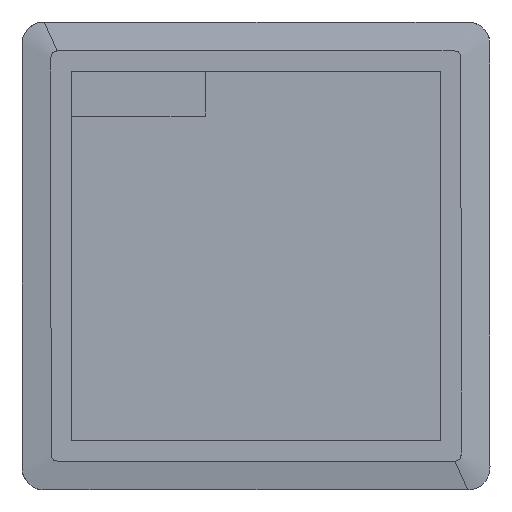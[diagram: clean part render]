
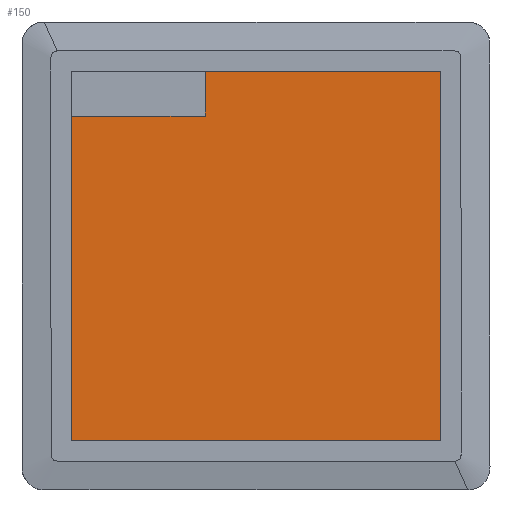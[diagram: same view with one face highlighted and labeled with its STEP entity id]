
A CAD part, front view. The second image highlights one B-rep face of the part: STEP entity #150.
In plain terms, the highlighted planar face has unit normal (0, -1, 0).
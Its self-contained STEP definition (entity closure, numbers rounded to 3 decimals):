
#150=ADVANCED_FACE('',(#494),#5454,.T.);
#494=FACE_OUTER_BOUND('',#847,.T.);
#847=EDGE_LOOP('',(#1357,#1358,#1359,#1360,#1361,#1362));
#1357=ORIENTED_EDGE('',*,*,#3081,.F.);
#1358=ORIENTED_EDGE('',*,*,#3084,.F.);
#1359=ORIENTED_EDGE('',*,*,#3077,.T.);
#1360=ORIENTED_EDGE('',*,*,#3086,.F.);
#1361=ORIENTED_EDGE('',*,*,#3080,.T.);
#1362=ORIENTED_EDGE('',*,*,#3085,.F.);
#3077=EDGE_CURVE('',#4893,#4894,#3963,.T.);
#3080=EDGE_CURVE('',#4897,#4898,#3966,.T.);
#3081=EDGE_CURVE('',#4896,#4899,#3967,.T.);
#3084=EDGE_CURVE('',#4893,#4896,#3970,.T.);
#3085=EDGE_CURVE('',#4899,#4898,#3971,.T.);
#3086=EDGE_CURVE('',#4897,#4894,#3972,.T.);
#3963=B_SPLINE_CURVE_WITH_KNOTS('',1,(#8150,#8151),.UNSPECIFIED.,.F.,.F.,
(2,2),(0.,82.8),.UNSPECIFIED.);
#3966=B_SPLINE_CURVE_WITH_KNOTS('',1,(#8156,#8157),.UNSPECIFIED.,.F.,.F.,
(2,2),(-82.8,-30.),.UNSPECIFIED.);
#3967=B_SPLINE_CURVE_WITH_KNOTS('',1,(#8158,#8159),.UNSPECIFIED.,.F.,.F.,
(2,2),(0.,30.),.UNSPECIFIED.);
#3970=B_SPLINE_CURVE_WITH_KNOTS('',1,(#8164,#8165,#8166,#8167,#8168,#8169,
#8170,#8171,#8172,#8173,#8174,#8175,#8176,#8177,#8178,#8179,#8180,#8181),
 .UNSPECIFIED.,.F.,.F.,(2,1,1,1,1,1,1,1,1,1,1,1,1,1,1,1,1,2),(0.,0.482,
3.182,9.532,12.232,18.582,21.283,
27.633,30.333,36.683,39.383,45.733,
48.434,54.784,57.484,63.834,66.534,
72.8),.UNSPECIFIED.);
#3971=B_SPLINE_CURVE_WITH_KNOTS('',1,(#8182,#8183,#8184,#8185),
 .UNSPECIFIED.,.F.,.F.,(2,1,1,2),(0.,3.502,6.203,10.),
 .UNSPECIFIED.);
#3972=B_SPLINE_CURVE_WITH_KNOTS('',1,(#8186,#8187,#8188,#8189,#8190,#8191,
#8192,#8193,#8194,#8195,#8196,#8197,#8198,#8199,#8200,#8201,#8202,#8203,
#8204,#8205),.UNSPECIFIED.,.F.,.F.,(2,1,1,1,1,1,1,1,1,1,1,1,1,1,1,1,1,1,
1,2),(-82.8,-75.585,-72.884,-66.534,
-63.834,-57.484,-54.784,-48.434,-45.733,
-39.383,-36.683,-30.333,-27.633,
-21.283,-18.582,-12.232,-9.532,
-3.182,-0.482,0.),.UNSPECIFIED.);
#4893=VERTEX_POINT('',#8081);
#4894=VERTEX_POINT('',#8082);
#4896=VERTEX_POINT('',#8084);
#4897=VERTEX_POINT('',#8085);
#4898=VERTEX_POINT('',#8086);
#4899=VERTEX_POINT('',#8087);
#5454=PLANE('',#5813);
#5813=AXIS2_PLACEMENT_3D('',#7280,#5979,$);
#5979=DIRECTION('',(0.,-1.,0.));
#7280=CARTESIAN_POINT('',(-41.4,-20.496,-41.4));
#8081=CARTESIAN_POINT('',(-41.4,-20.496,-41.4));
#8082=CARTESIAN_POINT('',(41.4,-20.496,-41.4));
#8084=CARTESIAN_POINT('',(-41.4,-20.496,31.4));
#8085=CARTESIAN_POINT('',(41.4,-20.496,41.4));
#8086=CARTESIAN_POINT('',(-11.4,-20.496,41.4));
#8087=CARTESIAN_POINT('',(-11.4,-20.496,31.4));
#8150=CARTESIAN_POINT('',(-41.4,-20.496,-41.4));
#8151=CARTESIAN_POINT('',(41.4,-20.496,-41.4));
#8156=CARTESIAN_POINT('',(41.4,-20.496,41.4));
#8157=CARTESIAN_POINT('',(-11.4,-20.496,41.4));
#8158=CARTESIAN_POINT('',(-41.4,-20.496,31.4));
#8159=CARTESIAN_POINT('',(-11.4,-20.496,31.4));
#8164=CARTESIAN_POINT('',(-41.4,-20.496,-41.4));
#8165=CARTESIAN_POINT('',(-41.4,-20.496,-40.918));
#8166=CARTESIAN_POINT('',(-41.4,-20.496,-38.218));
#8167=CARTESIAN_POINT('',(-41.4,-20.496,-31.868));
#8168=CARTESIAN_POINT('',(-41.4,-20.496,-29.168));
#8169=CARTESIAN_POINT('',(-41.4,-20.496,-22.818));
#8170=CARTESIAN_POINT('',(-41.4,-20.496,-20.117));
#8171=CARTESIAN_POINT('',(-41.4,-20.496,-13.767));
#8172=CARTESIAN_POINT('',(-41.4,-20.496,-11.067));
#8173=CARTESIAN_POINT('',(-41.4,-20.496,-4.717));
#8174=CARTESIAN_POINT('',(-41.4,-20.496,-2.017));
#8175=CARTESIAN_POINT('',(-41.4,-20.496,4.333));
#8176=CARTESIAN_POINT('',(-41.4,-20.496,7.034));
#8177=CARTESIAN_POINT('',(-41.4,-20.496,13.384));
#8178=CARTESIAN_POINT('',(-41.4,-20.496,16.084));
#8179=CARTESIAN_POINT('',(-41.4,-20.496,22.434));
#8180=CARTESIAN_POINT('',(-41.4,-20.496,25.134));
#8181=CARTESIAN_POINT('',(-41.4,-20.496,31.4));
#8182=CARTESIAN_POINT('',(-11.4,-20.496,31.4));
#8183=CARTESIAN_POINT('',(-11.4,-20.496,34.902));
#8184=CARTESIAN_POINT('',(-11.4,-20.496,37.603));
#8185=CARTESIAN_POINT('',(-11.4,-20.496,41.4));
#8186=CARTESIAN_POINT('',(41.4,-20.496,41.4));
#8187=CARTESIAN_POINT('',(41.4,-20.496,34.185));
#8188=CARTESIAN_POINT('',(41.4,-20.496,31.484));
#8189=CARTESIAN_POINT('',(41.4,-20.496,25.134));
#8190=CARTESIAN_POINT('',(41.4,-20.496,22.434));
#8191=CARTESIAN_POINT('',(41.4,-20.496,16.084));
#8192=CARTESIAN_POINT('',(41.4,-20.496,13.384));
#8193=CARTESIAN_POINT('',(41.4,-20.496,7.034));
#8194=CARTESIAN_POINT('',(41.4,-20.496,4.333));
#8195=CARTESIAN_POINT('',(41.4,-20.496,-2.017));
#8196=CARTESIAN_POINT('',(41.4,-20.496,-4.717));
#8197=CARTESIAN_POINT('',(41.4,-20.496,-11.067));
#8198=CARTESIAN_POINT('',(41.4,-20.496,-13.767));
#8199=CARTESIAN_POINT('',(41.4,-20.496,-20.117));
#8200=CARTESIAN_POINT('',(41.4,-20.496,-22.818));
#8201=CARTESIAN_POINT('',(41.4,-20.496,-29.168));
#8202=CARTESIAN_POINT('',(41.4,-20.496,-31.868));
#8203=CARTESIAN_POINT('',(41.4,-20.496,-38.218));
#8204=CARTESIAN_POINT('',(41.4,-20.496,-40.918));
#8205=CARTESIAN_POINT('',(41.4,-20.496,-41.4));
